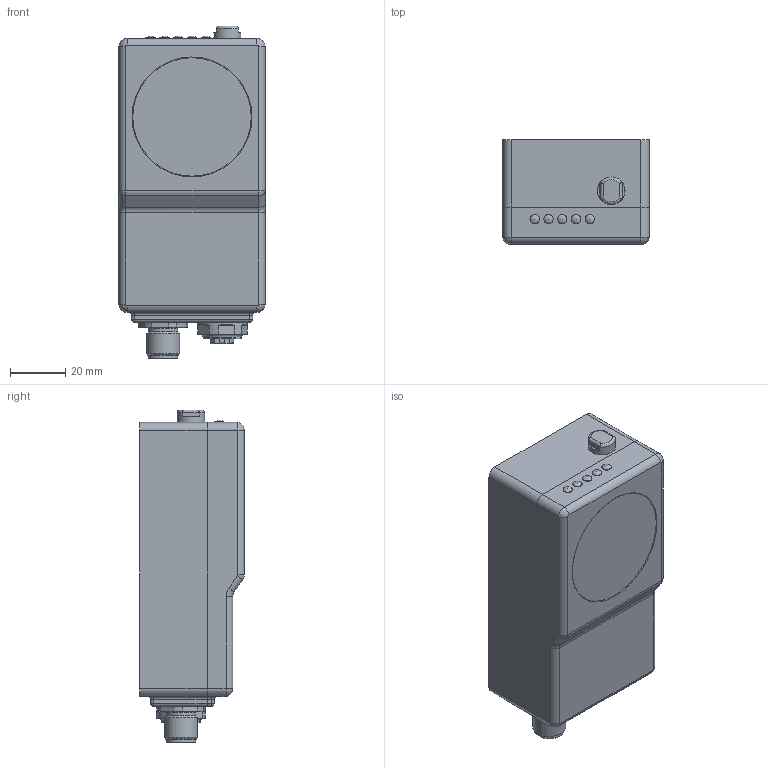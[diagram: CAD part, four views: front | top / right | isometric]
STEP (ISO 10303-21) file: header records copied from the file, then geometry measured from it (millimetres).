
FILE_DESCRIPTION( ( '' ), '1' );
FILE_NAME( 'C:/Users/stw/Desktop/Marketing_VS/11127070.stp', '160105', ( 'stw' ), ( 'Baumer Optronic GmbH' ), 'PSStep 15.0.49', 'ST5', ' ' );
FILE_SCHEMA( ( 'AUTOMOTIVE_DESIGN { 1 0 10303 214 1 1 1 1 }' ) );
Length unit declared in the file: millimetre
Products named in the file (1): 11036870
Bounding box: 53 x 38 x 120.5 mm (x, y, z)
Volume: 194648.3 mm3; surface area: 27888.8 mm2
Topology: 1 solids, 3 shells, 479 faces, 1237 edges, 807 vertices
Faces by surface type: plane 269, cylinder 130, torus 27, cone 26, sphere 21, bspline 6
Full cylindrical faces by diameter (mm): 0.63 x12, 1 x5, 1.2 x12, 3.242 x4, 3.4 x5, 5 x1, 6 x1, 6.6 x4, 9 x1, 10 x1, 10.7 x1, 10.75 x1, 10.917 x1, 12 x1, 14 x1, 16 x1, 17 x1, 18 x1, 20 x1, 39.2 x1, 43 x1, 43.5 x1
Entity records: 17371 total; most frequent: CARTESIAN_POINT 2544, DIRECTION 2303, ORIENTED_EDGE 2078, EDGE_CURVE 1039, AXIS2_PLACEMENT_3D 814, VERTEX_POINT 747, LINE 675, VECTOR 675
